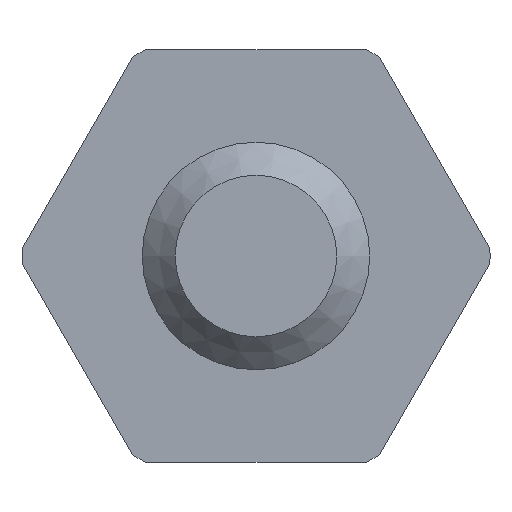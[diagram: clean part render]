
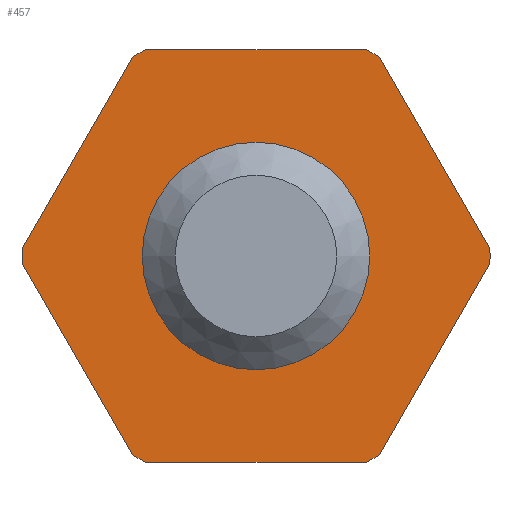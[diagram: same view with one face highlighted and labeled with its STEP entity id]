
A CAD part, left-side view. The second image highlights one B-rep face of the part: STEP entity #457.
In plain terms, the highlighted planar face has unit normal (-1, 0, 0).
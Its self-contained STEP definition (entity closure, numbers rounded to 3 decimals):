
#31=FACE_BOUND($,#88,.T.);
#32=FACE_BOUND($,#89,.T.);
#88=EDGE_LOOP($,(#333));
#89=EDGE_LOOP($,(#334,#335,#336,#337,#338,#339,#340,#341,#342,#343,#344,
#345));
#134=CIRCLE($,#502,1.232);
#135=CIRCLE($,#503,3.6);
#136=CIRCLE($,#504,3.6);
#137=CIRCLE($,#505,3.6);
#138=CIRCLE($,#506,3.6);
#139=CIRCLE($,#507,3.6);
#140=CIRCLE($,#508,3.6);
#160=LINE($,#729,#184);
#163=LINE($,#735,#187);
#166=LINE($,#741,#190);
#169=LINE($,#747,#193);
#172=LINE($,#753,#196);
#174=LINE($,#761,#198);
#184=VECTOR($,#581,3.394);
#187=VECTOR($,#586,3.394);
#190=VECTOR($,#591,3.394);
#193=VECTOR($,#596,3.394);
#196=VECTOR($,#601,3.394);
#198=VECTOR($,#609,3.394);
#217=VERTEX_POINT($,#726);
#218=VERTEX_POINT($,#728);
#219=VERTEX_POINT($,#732);
#220=VERTEX_POINT($,#734);
#221=VERTEX_POINT($,#738);
#222=VERTEX_POINT($,#740);
#223=VERTEX_POINT($,#744);
#224=VERTEX_POINT($,#746);
#225=VERTEX_POINT($,#750);
#226=VERTEX_POINT($,#752);
#227=VERTEX_POINT($,#756);
#228=VERTEX_POINT($,#758);
#229=VERTEX_POINT($,#760);
#259=EDGE_CURVE($,#218,#217,#160,.T.);
#262=EDGE_CURVE($,#220,#219,#163,.T.);
#265=EDGE_CURVE($,#222,#221,#166,.T.);
#268=EDGE_CURVE($,#224,#223,#169,.T.);
#271=EDGE_CURVE($,#226,#225,#172,.T.);
#273=EDGE_CURVE($,#227,#227,#134,.T.);
#274=EDGE_CURVE($,#217,#228,#135,.T.);
#275=EDGE_CURVE($,#228,#229,#174,.T.);
#276=EDGE_CURVE($,#229,#226,#136,.T.);
#277=EDGE_CURVE($,#225,#224,#137,.T.);
#278=EDGE_CURVE($,#223,#222,#138,.T.);
#279=EDGE_CURVE($,#221,#220,#139,.T.);
#280=EDGE_CURVE($,#219,#218,#140,.T.);
#333=ORIENTED_EDGE($,*,*,#273,.F.);
#334=ORIENTED_EDGE($,*,*,#259,.T.);
#335=ORIENTED_EDGE($,*,*,#274,.T.);
#336=ORIENTED_EDGE($,*,*,#275,.T.);
#337=ORIENTED_EDGE($,*,*,#276,.T.);
#338=ORIENTED_EDGE($,*,*,#271,.T.);
#339=ORIENTED_EDGE($,*,*,#277,.T.);
#340=ORIENTED_EDGE($,*,*,#268,.T.);
#341=ORIENTED_EDGE($,*,*,#278,.T.);
#342=ORIENTED_EDGE($,*,*,#265,.T.);
#343=ORIENTED_EDGE($,*,*,#279,.T.);
#344=ORIENTED_EDGE($,*,*,#262,.T.);
#345=ORIENTED_EDGE($,*,*,#280,.T.);
#408=PLANE($,#501);
#457=ADVANCED_FACE($,(#31,#32),#408,.T.);
#501=AXIS2_PLACEMENT_3D($,#755,#603,#604);
#502=AXIS2_PLACEMENT_3D($,#757,#605,#606);
#503=AXIS2_PLACEMENT_3D($,#759,#607,#608);
#504=AXIS2_PLACEMENT_3D($,#762,#610,#611);
#505=AXIS2_PLACEMENT_3D($,#763,#612,#613);
#506=AXIS2_PLACEMENT_3D($,#764,#614,#615);
#507=AXIS2_PLACEMENT_3D($,#765,#616,#617);
#508=AXIS2_PLACEMENT_3D($,#766,#618,#619);
#581=DIRECTION($,(0.,-1.,0.));
#586=DIRECTION($,(0.,-0.5,-0.866));
#591=DIRECTION($,(0.,0.5,-0.866));
#596=DIRECTION($,(0.,1.,0.));
#601=DIRECTION($,(0.,0.5,0.866));
#603=DIRECTION('center_axis',(-1.,0.,0.));
#604=DIRECTION('ref_axis',(0.,0.866,0.5));
#605=DIRECTION('center_axis',(-1.,0.,0.));
#606=DIRECTION('ref_axis',(0.,0.5,-0.866));
#607=DIRECTION('center_axis',(-1.,0.,0.));
#608=DIRECTION('ref_axis',(0.,0.5,-0.866));
#609=DIRECTION($,(0.,-0.5,0.866));
#610=DIRECTION('center_axis',(-1.,0.,0.));
#611=DIRECTION('ref_axis',(0.,0.5,-0.866));
#612=DIRECTION('center_axis',(-1.,0.,0.));
#613=DIRECTION('ref_axis',(0.,0.5,-0.866));
#614=DIRECTION('center_axis',(-1.,0.,0.));
#615=DIRECTION('ref_axis',(0.,0.5,-0.866));
#616=DIRECTION('center_axis',(-1.,0.,0.));
#617=DIRECTION('ref_axis',(0.,0.5,-0.866));
#618=DIRECTION('center_axis',(-1.,0.,0.));
#619=DIRECTION('ref_axis',(0.,0.5,-0.866));
#726=CARTESIAN_POINT('',(-1.575,-1.697,-3.175));
#728=CARTESIAN_POINT('',(-1.575,1.697,-3.175));
#729=CARTESIAN_POINT($,(-1.575,0.6,-3.175));
#732=CARTESIAN_POINT('',(-1.575,1.901,-3.057));
#734=CARTESIAN_POINT('',(-1.575,3.598,-0.118));
#735=CARTESIAN_POINT($,(-1.575,2.446,-2.114));
#738=CARTESIAN_POINT('',(-1.575,3.598,0.118));
#740=CARTESIAN_POINT('',(-1.575,1.901,3.057));
#741=CARTESIAN_POINT($,(-1.575,3.356,0.538));
#744=CARTESIAN_POINT('',(-1.575,1.697,3.175));
#746=CARTESIAN_POINT('',(-1.575,-1.697,3.175));
#747=CARTESIAN_POINT($,(-1.575,0.608,3.175));
#750=CARTESIAN_POINT('',(-1.575,-1.901,3.057));
#752=CARTESIAN_POINT('',(-1.575,-3.598,0.118));
#753=CARTESIAN_POINT($,(-1.575,-3.05,1.068));
#755=CARTESIAN_POINT('Origin',(-1.575,1.208,-2.092));
#756=CARTESIAN_POINT('',(-1.575,0.616,-1.067));
#757=CARTESIAN_POINT('Origin',(-1.575,0.,0.));
#758=CARTESIAN_POINT('',(-1.575,-1.901,-3.057));
#759=CARTESIAN_POINT('Origin',(-1.575,0.,0.));
#760=CARTESIAN_POINT('',(-1.575,-3.598,-0.118));
#761=CARTESIAN_POINT($,(-1.575,-2.148,-2.63));
#762=CARTESIAN_POINT('Origin',(-1.575,0.,0.));
#763=CARTESIAN_POINT('Origin',(-1.575,0.,0.));
#764=CARTESIAN_POINT('Origin',(-1.575,0.,0.));
#765=CARTESIAN_POINT('Origin',(-1.575,0.,0.));
#766=CARTESIAN_POINT('Origin',(-1.575,0.,0.));
